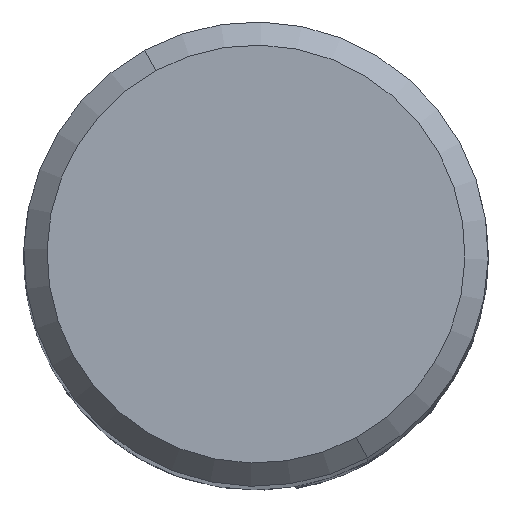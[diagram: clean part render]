
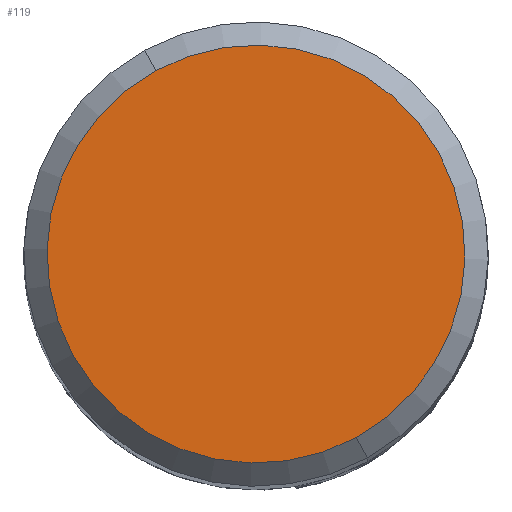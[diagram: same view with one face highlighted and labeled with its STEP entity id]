
A CAD part, top view. The second image highlights one B-rep face of the part: STEP entity #119.
In plain terms, the highlighted planar face has unit normal (0, 0, 1).
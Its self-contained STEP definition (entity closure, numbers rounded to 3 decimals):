
#72=AXIS2_PLACEMENT_3D('Circle Axis2P3D',#70,#71,$) ;
#108=AXIS2_PLACEMENT_3D('Plane Axis2P3D',#105,#106,#107) ;
#112=AXIS2_PLACEMENT_3D('Circle Axis2P3D',#110,#111,$) ;
#70=CARTESIAN_POINT('Axis2P3D Location',(0.,0.,72.)) ;
#74=CARTESIAN_POINT('Vertex',(-2.157,3.949,72.)) ;
#76=CARTESIAN_POINT('Vertex',(2.157,-3.949,72.)) ;
#105=CARTESIAN_POINT('Axis2P3D Location',(0.,4.5,72.)) ;
#110=CARTESIAN_POINT('Axis2P3D Location',(0.,0.,72.)) ;
#71=DIRECTION('Axis2P3D Direction',(0.,0.,-1.)) ;
#106=DIRECTION('Axis2P3D Direction',(0.,0.,1.)) ;
#107=DIRECTION('Axis2P3D XDirection',(-1.,0.,0.)) ;
#111=DIRECTION('Axis2P3D Direction',(0.,0.,1.)) ;
#116=ORIENTED_EDGE('',*,*,#78,.T.) ;
#117=ORIENTED_EDGE('',*,*,#114,.T.) ;
#119=ADVANCED_FACE('NOCUT',(#118),#109,.T.) ;
#73=CIRCLE('generated circle',#72,4.5) ;
#113=CIRCLE('generated circle',#112,4.5) ;
#78=EDGE_CURVE('',#75,#77,#73,.F.) ;
#114=EDGE_CURVE('',#77,#75,#113,.T.) ;
#115=EDGE_LOOP('',(#116,#117)) ;
#118=FACE_OUTER_BOUND('',#115,.T.) ;
#109=PLANE('',#108) ;
#75=VERTEX_POINT('',#74) ;
#77=VERTEX_POINT('',#76) ;
